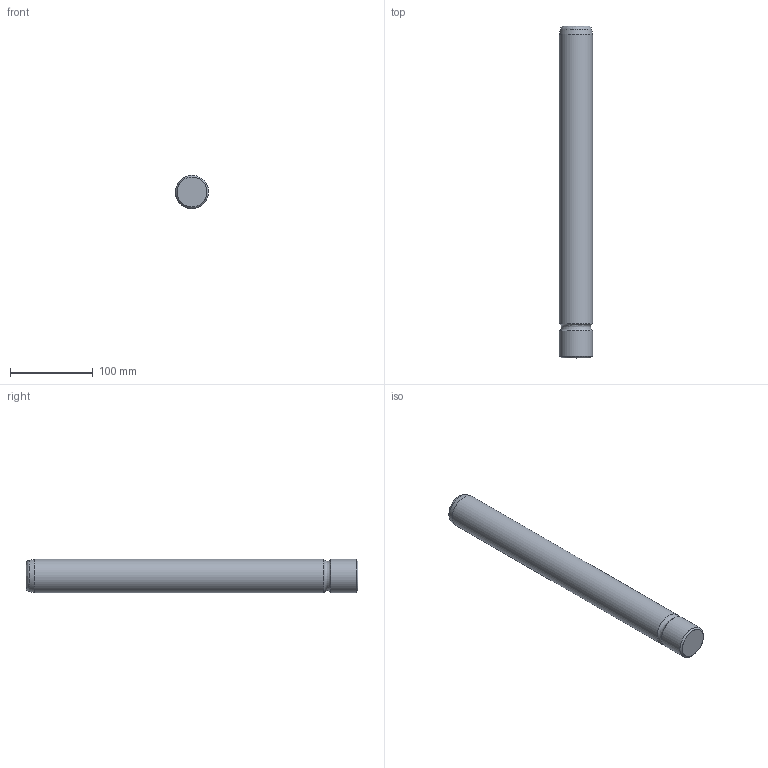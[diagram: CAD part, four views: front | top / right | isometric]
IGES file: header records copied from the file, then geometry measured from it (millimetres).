
Start section: Missler Software BP 521, 31674 Labege Cedex, France Tel   : +33 (0)5 61 00 03 00 Fax   : +33 (0)5 61 00 03 03 Email : sup.topsolid@topsolid.com
Global section: file name: C:\Documents and Settings\EXPER\Desktop\Cuma\D10 Serisi\D10_40400.igs; native system: TopSolid v605250 Missler Software; preprocessor: IGES preprocessor v100000; date: 030101.003158; units: millimetre
Bounding box: 39.99 x 400 x 40 mm (x, y, z)
Surface area: 52447.1 mm2 (no closed solid volume)
Topology: 0 solids, 0 shells, 8 faces, 85 edges, 80 vertices
Faces by surface type: bspline 8
